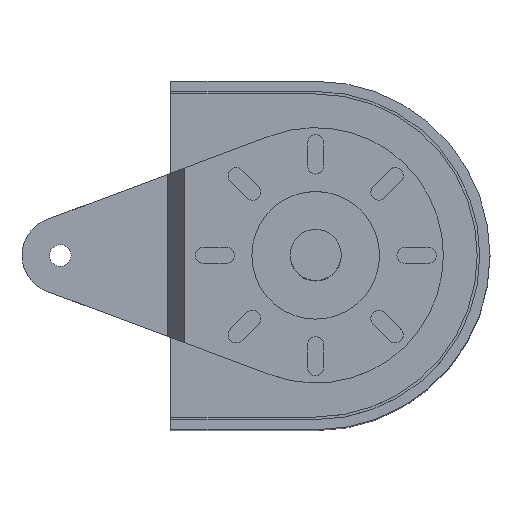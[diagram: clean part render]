
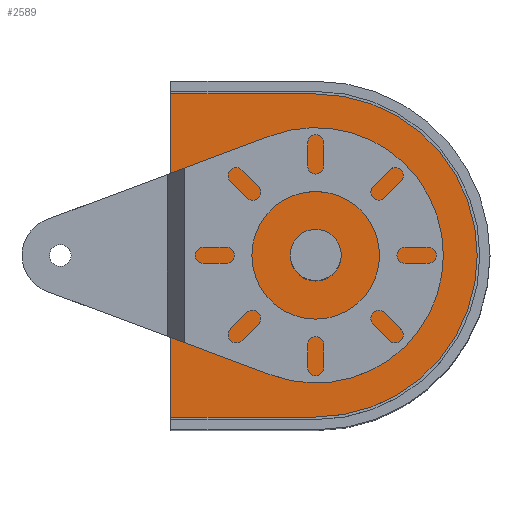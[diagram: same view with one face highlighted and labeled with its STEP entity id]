
A CAD part, top view. The second image highlights one B-rep face of the part: STEP entity #2589.
In plain terms, the highlighted planar face has unit normal (0, 0, 1).
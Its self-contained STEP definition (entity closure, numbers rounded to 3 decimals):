
#83 = DIRECTION ( 'NONE',  ( 0., 0., 1. ) ) ;
#120 = VECTOR ( 'NONE', #2594, 1000. ) ;
#204 = DIRECTION ( 'NONE',  ( 0., 0., 1. ) ) ;
#236 = VERTEX_POINT ( 'NONE', #1667 ) ;
#283 = CARTESIAN_POINT ( 'NONE',  ( -68.25, 63.25, 116.25 ) ) ;
#322 = AXIS2_PLACEMENT_3D ( 'NONE', #782, #745, #1378 ) ;
#324 = EDGE_LOOP ( 'NONE', ( #1994, #2523, #332, #892 ) ) ;
#332 = ORIENTED_EDGE ( 'NONE', *, *, #698, .T. ) ;
#430 = AXIS2_PLACEMENT_3D ( 'NONE', #1118, #83, #1709 ) ;
#518 = CARTESIAN_POINT ( 'NONE',  ( -125., -63.25, 116.25 ) ) ;
#576 = VERTEX_POINT ( 'NONE', #518 ) ;
#607 = AXIS2_PLACEMENT_3D ( 'NONE', #2572, #749, #1769 ) ;
#611 = ORIENTED_EDGE ( 'NONE', *, *, #1428, .F. ) ;
#617 = EDGE_CURVE ( 'NONE', #236, #1436, #1263, .T. ) ;
#694 = VECTOR ( 'NONE', #955, 1000. ) ;
#698 = EDGE_CURVE ( 'NONE', #576, #1276, #1686, .T. ) ;
#745 = DIRECTION ( 'NONE',  ( 0., 0., 1. ) ) ;
#749 = DIRECTION ( 'NONE',  ( 0., 0., 1. ) ) ;
#756 = LINE ( 'NONE', #283, #1138 ) ;
#782 = CARTESIAN_POINT ( 'NONE',  ( -68.25, 0., 116.25 ) ) ;
#788 = EDGE_LOOP ( 'NONE', ( #611, #1049 ) ) ;
#892 = ORIENTED_EDGE ( 'NONE', *, *, #1571, .T. ) ;
#955 = DIRECTION ( 'NONE',  ( 1., 0., 0. ) ) ;
#976 = PLANE ( 'NONE',  #1126 ) ;
#1049 = ORIENTED_EDGE ( 'NONE', *, *, #617, .F. ) ;
#1118 = CARTESIAN_POINT ( 'NONE',  ( -68.25, 0., 116.25 ) ) ;
#1126 = AXIS2_PLACEMENT_3D ( 'NONE', #1186, #204, #2608 ) ;
#1138 = VECTOR ( 'NONE', #1499, 1000. ) ;
#1160 = CARTESIAN_POINT ( 'NONE',  ( -125., -63.25, 116.25 ) ) ;
#1186 = CARTESIAN_POINT ( 'NONE',  ( -68.25, 0., 116.25 ) ) ;
#1263 = CIRCLE ( 'NONE', #322, 10. ) ;
#1276 = VERTEX_POINT ( 'NONE', #1893 ) ;
#1378 = DIRECTION ( 'NONE',  ( 1., 0., 0. ) ) ;
#1428 = EDGE_CURVE ( 'NONE', #1436, #236, #2022, .T. ) ;
#1436 = VERTEX_POINT ( 'NONE', #1901 ) ;
#1447 = LINE ( 'NONE', #2384, #120 ) ;
#1499 = DIRECTION ( 'NONE',  ( -1., 0., 0. ) ) ;
#1571 = EDGE_CURVE ( 'NONE', #1276, #2048, #2490, .T. ) ;
#1611 = EDGE_CURVE ( 'NONE', #1972, #576, #1447, .T. ) ;
#1667 = CARTESIAN_POINT ( 'NONE',  ( -58.25, 0., 116.25 ) ) ;
#1686 = LINE ( 'NONE', #1160, #694 ) ;
#1709 = DIRECTION ( 'NONE',  ( 1., 0., 0. ) ) ;
#1769 = DIRECTION ( 'NONE',  ( 1., 0., 0. ) ) ;
#1823 = CARTESIAN_POINT ( 'NONE',  ( -68.25, 63.25, 116.25 ) ) ;
#1893 = CARTESIAN_POINT ( 'NONE',  ( -68.25, -63.25, 116.25 ) ) ;
#1901 = CARTESIAN_POINT ( 'NONE',  ( -78.25, 0., 116.25 ) ) ;
#1972 = VERTEX_POINT ( 'NONE', #2585 ) ;
#1986 = FACE_BOUND ( 'NONE', #788, .T. ) ;
#1994 = ORIENTED_EDGE ( 'NONE', *, *, #2341, .T. ) ;
#2022 = CIRCLE ( 'NONE', #430, 10. ) ;
#2048 = VERTEX_POINT ( 'NONE', #1823 ) ;
#2049 = FACE_OUTER_BOUND ( 'NONE', #324, .T. ) ;
#2341 = EDGE_CURVE ( 'NONE', #2048, #1972, #756, .T. ) ;
#2384 = CARTESIAN_POINT ( 'NONE',  ( -125., 63.25, 116.25 ) ) ;
#2490 = CIRCLE ( 'NONE', #607, 63.25 ) ;
#2523 = ORIENTED_EDGE ( 'NONE', *, *, #1611, .T. ) ;
#2572 = CARTESIAN_POINT ( 'NONE',  ( -68.25, 0., 116.25 ) ) ;
#2585 = CARTESIAN_POINT ( 'NONE',  ( -125., 63.25, 116.25 ) ) ;
#2589 = ADVANCED_FACE ( 'NONE', ( #2049, #1986 ), #976, .T. ) ;
#2594 = DIRECTION ( 'NONE',  ( 0., -1., 0. ) ) ;
#2608 = DIRECTION ( 'NONE',  ( 1., 0., 0. ) ) ;
